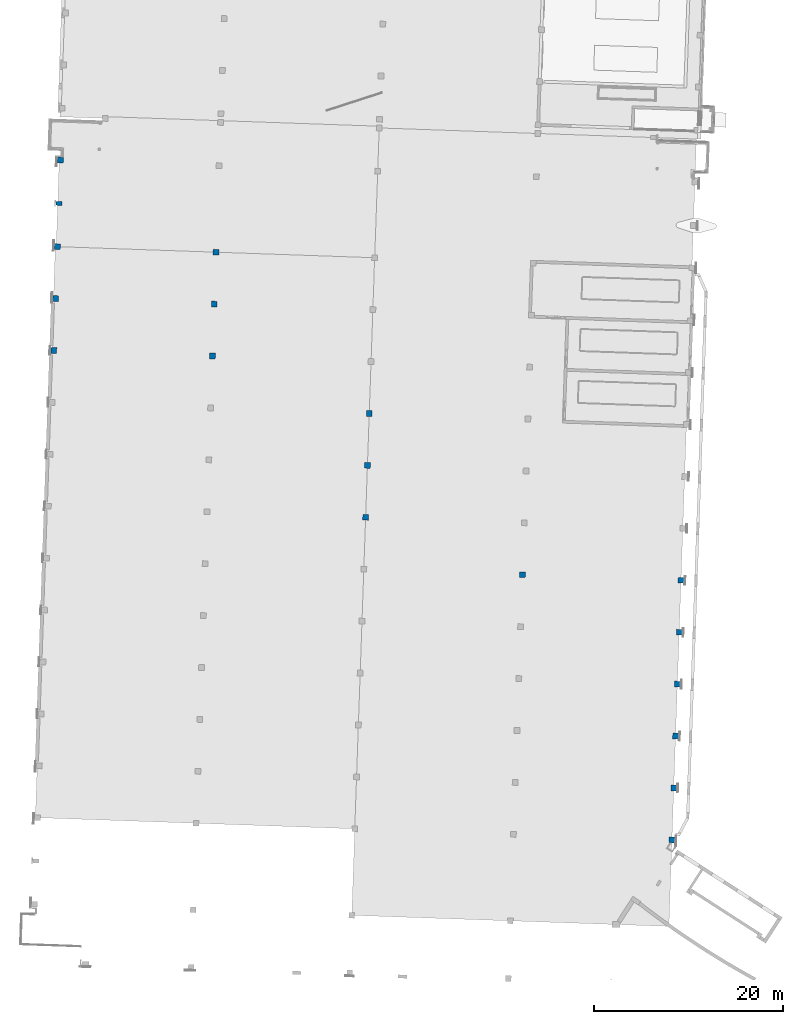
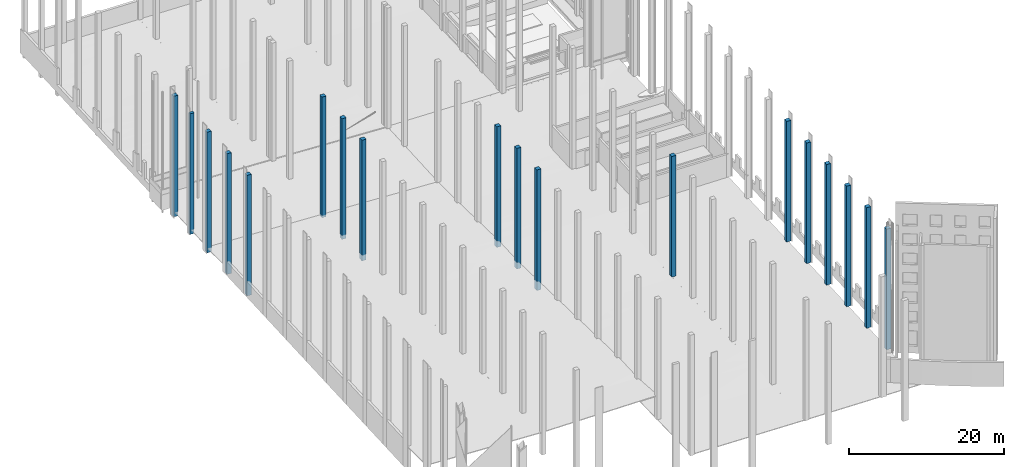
# One storey, part 2 of 44: 18 columns.
"""IFC2X3 building model written with IfcOpenShell, lengths in feet."""

import ifcopenshell
import ifcopenshell.guid

model = None  # the IFC model being written
_history = None  # IfcOwnerHistory: only IFC2X3 demands one
_inside = {}  # id of a spatial element -> (the spatial element, [elements in it])
_under = {}  # id of a project, library or spatial element -> (it, [spatial elements below it])
_declared = {}  # id of a project -> (the project, [libraries it declares])
_typed = {}  # id of a type object -> (the type object, [elements of that type])
_made_of = {}  # id of a material, layer set ... -> (it, [elements and type objects made of it])


def new_model(schema):
    """Start an empty IFC model of exactly this schema.

    Asked for "IFC4X3", IfcOpenShell would pick the latest addendum, in which some entities
    have other attributes; the version numbers below select the first issue.
    IFC2X3 requires an IfcOwnerHistory on every rooted entity: one is made here for all.
    """
    global model, _history
    if schema == "IFC4X3":
        model = ifcopenshell.file(schema_version=(4, 3, 0, 0))
    else:
        model = ifcopenshell.file(schema=schema)
    _inside.clear()
    _under.clear()
    _declared.clear()
    _typed.clear()
    _made_of.clear()
    _history = None
    if model.schema == "IFC2X3":
        org = make("IfcOrganization", Name="unknown")
        user = make(
            "IfcPersonAndOrganization",
            ThePerson=make("IfcPerson", FamilyName="unknown"),
            TheOrganization=org,
        )
        app = make(
            "IfcApplication",
            ApplicationDeveloper=org,
            Version="unknown",
            ApplicationFullName="unknown",
            ApplicationIdentifier="unknown",
        )
        _history = make(
            "IfcOwnerHistory",
            OwningUser=user,
            OwningApplication=app,
            ChangeAction="ADDED",
            CreationDate=0,
        )
    return model


def make(cls, **values):
    """One entity of the class cls with the attributes given. An attribute that is None is left unset."""
    return model.create_entity(
        cls, **{name: value for name, value in values.items() if value is not None}
    )


def entity(cls, *values):
    """Any entity or typed value of the class cls, its attributes in the order of the schema. None: left unset."""
    e = model.create_entity(cls)
    for i, value in enumerate(values):
        if value is not None:
            e[i] = value
    return e


def rooted(cls, **values):
    """An entity with a GlobalId (a new one), such as an element, a storey or a relation."""
    return make(cls, GlobalId=ifcopenshell.guid.new(), OwnerHistory=_history, **values)


def si_unit(unit_type, name, prefix=None):
    """IfcSIUnit, for example si_unit("LENGTHUNIT", "METRE", prefix="MILLI")."""
    return make("IfcSIUnit", UnitType=unit_type, Prefix=prefix, Name=name)


def converted_unit(unit_type, name, factor, base, dimensions=None, offset=None):
    """IfcConversionBasedUnit, such as the inch: factor (a typed value) times the base unit."""
    return make(
        "IfcConversionBasedUnit"
        if offset is None
        else "IfcConversionBasedUnitWithOffset",
        ConversionOffset=offset,
        Dimensions=None
        if dimensions is None
        else entity("IfcDimensionalExponents", *dimensions),
        UnitType=unit_type,
        Name=name,
        ConversionFactor=make(
            "IfcMeasureWithUnit", ValueComponent=factor, UnitComponent=base
        ),
    )


def derived_unit(unit_type, elements):
    """IfcDerivedUnit: a product of units, each with its exponent."""
    return make(
        "IfcDerivedUnit",
        Elements=[
            make("IfcDerivedUnitElement", Unit=unit, Exponent=power)
            for unit, power in elements
        ],
        UnitType=unit_type,
    )


def assignment(units):
    """IfcUnitAssignment: the units of a project."""
    return None if units is None else make("IfcUnitAssignment", Units=units)


def point(xyz):
    """IfcCartesianPoint."""
    return None if xyz is None else make("IfcCartesianPoint", Coordinates=xyz)


def direction(xyz):
    """IfcDirection."""
    return None if xyz is None else make("IfcDirection", DirectionRatios=xyz)


def frame(location, z_axis=None, x_axis=None):
    """IfcAxis2Placement3D, a coordinate frame: its origin and axes. An axis left out is left unset."""
    return make(
        "IfcAxis2Placement3D",
        Location=point(location),
        Axis=direction(z_axis),
        RefDirection=direction(x_axis),
    )


def frame_2d(location, x_axis=None):
    """IfcAxis2Placement2D, a coordinate frame in the plane: its origin and x axis."""
    return make(
        "IfcAxis2Placement2D", Location=point(location), RefDirection=direction(x_axis)
    )


def origin():
    """The frame at (0, 0, 0) with its axes left unset."""
    return frame((0.0, 0.0, 0.0))


def origin_2d_with_axis():
    """The frame at (0, 0) in the plane with the x axis (1, 0) written out."""
    return frame_2d((0.0, 0.0), x_axis=(1.0, 0.0))


def place(relative_to, where):
    """IfcLocalPlacement: puts the frame where relative to a parent placement (None: the world)."""
    return make(
        "IfcLocalPlacement", PlacementRelTo=relative_to, RelativePlacement=where
    )


def context(
    kind, dimensions, precision=None, world=None, true_north=None, identifier=None
):
    """IfcGeometricRepresentationContext, for example the 3D "Model" context."""
    return make(
        "IfcGeometricRepresentationContext",
        ContextIdentifier=identifier,
        ContextType=kind,
        CoordinateSpaceDimension=dimensions,
        Precision=precision,
        WorldCoordinateSystem=world,
        TrueNorth=true_north,
    )


def subcontext(parent, identifier, kind, view, scale=None):
    """IfcGeometricRepresentationSubContext, for example "Body" below "Model"."""
    return make(
        "IfcGeometricRepresentationSubContext",
        ContextIdentifier=identifier,
        ContextType=kind,
        ParentContext=parent,
        TargetScale=scale,
        TargetView=view,
    )


def project(units=None, contexts=None):
    """IfcProject with its units and contexts."""
    return rooted(
        "IfcProject",
        Name="project",
        RepresentationContexts=contexts,
        UnitsInContext=assignment(units),
    )


def spatial(cls, under=None, at=None, **own):
    """A site, building, storey or space (cls), placed at a placement, below another one or the project."""
    s = rooted(cls, ObjectPlacement=at, **own)
    if under is not None:
        _under.setdefault(under.id(), (under, []))[1].append(s)
    return s


def profile(cls, at=None, kind="AREA", **sizes):
    """A parametric profile (cls). Its sizes go by their IFC names, for example OverallWidth=200.0."""
    return make(cls, ProfileType=kind, Position=at, **sizes)


def rectangle(**sizes):
    """IfcRectangleProfileDef."""
    return profile("IfcRectangleProfileDef", **sizes)


def extrude(swept, where, along, depth):
    """IfcExtrudedAreaSolid: the profile swept, set in the frame where, extruded along a direction by depth."""
    return make(
        "IfcExtrudedAreaSolid",
        SweptArea=swept,
        Position=where,
        ExtrudedDirection=direction(along),
        Depth=depth,
    )


def shape(context_of_items, identifier, shape_type, items):
    """IfcShapeRepresentation: the items that make up one representation, for example the "Body"."""
    return make(
        "IfcShapeRepresentation",
        ContextOfItems=context_of_items,
        RepresentationIdentifier=identifier,
        RepresentationType=shape_type,
        Items=items,
    )


def source(mapping_origin, context_of_items, identifier, shape_type, items):
    """IfcRepresentationMap: a shape defined once, which mapped items show again and again."""
    return make(
        "IfcRepresentationMap",
        MappingOrigin=mapping_origin,
        MappedRepresentation=shape(context_of_items, identifier, shape_type, items),
    )


def transform(
    local_origin,
    x_axis=None,
    y_axis=None,
    z_axis=None,
    scale=None,
    scale2=None,
    scale3=None,
    uniform=True,
):
    """IfcCartesianTransformationOperator3D, or its non-uniform kind. x_axis, y_axis, z_axis: its Axis1, 2, 3."""
    if uniform:
        return make(
            "IfcCartesianTransformationOperator3D",
            Axis1=direction(x_axis),
            Axis2=direction(y_axis),
            LocalOrigin=point(local_origin),
            Scale=scale,
            Axis3=direction(z_axis),
        )
    return make(
        "IfcCartesianTransformationOperator3DnonUniform",
        Axis1=direction(x_axis),
        Axis2=direction(y_axis),
        LocalOrigin=point(local_origin),
        Scale=scale,
        Axis3=direction(z_axis),
        Scale2=scale2,
        Scale3=scale3,
    )


def mapped(mapping_source, mapping_target):
    """IfcMappedItem: shows the shape of a source again, moved by a transform."""
    return make(
        "IfcMappedItem", MappingSource=mapping_source, MappingTarget=mapping_target
    )


def material(Name=None, Category=None):
    """IfcMaterial."""
    return make("IfcMaterial", Name=Name, Category=Category)


def made_of(thing, what):
    """Note that an element or type object is made of a material, layer set ...; save() writes the relation."""
    if what is not None:
        _made_of.setdefault(what.id(), (what, []))[1].append(thing)
    return thing


def type_object(cls, material=None, **own):
    """A type object (cls), such as IfcWallType, which elements share."""
    return made_of(rooted(cls, **own), material)


def type_shapes(of_type, sources):
    """Give a type object the sources (RepresentationMaps) that its elements show as mapped items."""
    of_type.RepresentationMaps = sources


def element(
    cls,
    number,
    at=None,
    inside=None,
    cuts=None,
    type_object=None,
    material=None,
    context=None,
    identifier="Body",
    shape_type=None,
    held_by="IfcProductDefinitionShape",
    body=None,
    shapes=None,
    **own,
):
    """One element of the class cls, such as IfcWall. Its Tag is "e" and its number.

    at: its placement. inside: the storey or other place that contains it. cuts: it is an
    opening in that element (IfcRelVoidsElement). A single representation is given by context,
    identifier, shape_type and body (its items); several are given by shapes. held_by: the class
    of the entity that holds the representations. save() writes the other relations.
    """
    e = rooted(cls, Tag="e%d" % number, ObjectPlacement=at, **own)
    if body is not None:
        shapes = [shape(context, identifier, shape_type, body)]
    if shapes is not None:
        e.Representation = make(held_by, Representations=shapes)
    if inside is not None:
        _inside.setdefault(inside.id(), (inside, []))[1].append(e)
    if cuts is not None:
        rooted(
            "IfcRelVoidsElement", RelatingBuildingElement=cuts, RelatedOpeningElement=e
        )
    if type_object is not None:
        _typed.setdefault(type_object.id(), (type_object, []))[1].append(e)
    return made_of(e, material)


def aggregate(whole, parts):
    """IfcRelAggregates: a whole, such as a stair, and the parts it consists of."""
    return rooted("IfcRelAggregates", RelatingObject=whole, RelatedObjects=parts)


def save(model, path):
    """Write the relations noted so far, then the file.

    IfcRelAggregates (storeys below a building ...), IfcRelContainedInSpatialStructure (elements
    in a storey), IfcRelDefinesByType, IfcRelAssociatesMaterial and IfcRelDeclares: one each for
    every whole, place, type object, material and project.
    """
    for whole, parts in _under.values():
        aggregate(whole, parts)
    for where, things in _inside.values():
        rooted(
            "IfcRelContainedInSpatialStructure",
            RelatedElements=things,
            RelatingStructure=where,
        )
    for kind, things in _typed.values():
        rooted("IfcRelDefinesByType", RelatedObjects=things, RelatingType=kind)
    for what, things in _made_of.values():
        rooted("IfcRelAssociatesMaterial", RelatedObjects=things, RelatingMaterial=what)
    for by, libraries in _declared.values():
        rooted("IfcRelDeclares", RelatingContext=by, RelatedDefinitions=libraries)
    model.write(path)


model = new_model("IFC2X3")

# Units and contexts
model_context = context("Model", 3, precision=0.0001, world=origin(), true_north=direction((0.999390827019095, 0.0348994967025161)))
body_context = subcontext(model_context, "Body", "Model", "MODEL_VIEW")
ifc_project = project(units=[converted_unit("LENGTHUNIT", "FOOT", entity("IfcRatioMeasure", 0.3048), si_unit("LENGTHUNIT", "METRE"), dimensions=[1, 0, 0, 0, 0, 0, 0]), converted_unit("AREAUNIT", "SQUARE FOOT", entity("IfcRatioMeasure", 0.09290304), si_unit("AREAUNIT", "SQUARE_METRE"), dimensions=[2, 0, 0, 0, 0, 0, 0]), converted_unit("VOLUMEUNIT", "CUBIC FOOT", entity("IfcRatioMeasure", 0.028316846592), si_unit("VOLUMEUNIT", "CUBIC_METRE"), dimensions=[3, 0, 0, 0, 0, 0, 0]), converted_unit("PLANEANGLEUNIT", "DEGREE", entity("IfcRatioMeasure", 0.0174532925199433), si_unit("PLANEANGLEUNIT", "RADIAN"), dimensions=[0, 0, 0, 0, 0, 0, 0]), si_unit("MASSUNIT", "GRAM", prefix="KILO"), si_unit("TIMEUNIT", "SECOND"), si_unit("FREQUENCYUNIT", "HERTZ"), si_unit("THERMODYNAMICTEMPERATUREUNIT", "DEGREE_CELSIUS"), derived_unit("THERMALTRANSMITTANCEUNIT", [(si_unit("MASSUNIT", "GRAM", prefix="KILO"), 1), (si_unit("THERMODYNAMICTEMPERATUREUNIT", "KELVIN"), -1), (si_unit("TIMEUNIT", "SECOND"), -3)]), derived_unit("VOLUMETRICFLOWRATEUNIT", [(si_unit("LENGTHUNIT", "METRE"), 3), (si_unit("TIMEUNIT", "SECOND"), -1)]), si_unit("ELECTRICCURRENTUNIT", "AMPERE"), si_unit("ELECTRICVOLTAGEUNIT", "VOLT"), si_unit("POWERUNIT", "WATT"), si_unit("FORCEUNIT", "NEWTON"), si_unit("ILLUMINANCEUNIT", "LUX"), si_unit("LUMINOUSFLUXUNIT", "LUMEN"), si_unit("LUMINOUSINTENSITYUNIT", "CANDELA"), derived_unit("USERDEFINED", [(si_unit("MASSUNIT", "GRAM", prefix="KILO"), -1), (si_unit("LENGTHUNIT", "METRE"), -2), (si_unit("TIMEUNIT", "SECOND"), 3), (si_unit("LUMINOUSFLUXUNIT", "LUMEN"), 1)]), derived_unit("LINEARVELOCITYUNIT", [(si_unit("LENGTHUNIT", "METRE"), 1), (si_unit("TIMEUNIT", "SECOND"), -1)]), si_unit("PRESSUREUNIT", "PASCAL"), derived_unit("USERDEFINED", [(si_unit("LENGTHUNIT", "METRE"), -2), (si_unit("MASSUNIT", "GRAM", prefix="KILO"), 1), (si_unit("TIMEUNIT", "SECOND"), -2)])], contexts=[model_context])

# Site, building, storey
site_placement = place(None, frame((892.518771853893, 322.38689265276, 0.00393700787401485), z_axis=(0.0, 0.0, 1.0), x_axis=(0.0348994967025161, 0.999390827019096, 0.0)))
site = spatial("IfcSite", under=ifc_project, at=site_placement, Name="Default", CompositionType="ELEMENT")
building_placement = place(site_placement, origin())
building = spatial("IfcBuilding", under=site, at=building_placement, CompositionType="ELEMENT")
storey_placement = place(building_placement, frame((0.0, 0.0, 544.75)))
storey = spatial("IfcBuildingStorey", under=building, at=storey_placement, Name="Exist Garage - Ground Level", CompositionType="ELEMENT", Elevation=544.75)

# Columns
ifc_material = material(Name="Concrete - Cast-in-Place Concrete")
column_type_1 = type_object("IfcColumnType", Name="24 x 24", PredefinedType="COLUMN", material=ifc_material)
shared_shape_1 = source(origin(), body_context, "Body", "SweptSolid", [
    extrude(rectangle(XDim=2.0, YDim=2.0, at=origin_2d_with_axis()), frame((87.9272968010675, 456.76395347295, 544.75), z_axis=(0.0, 0.0, 1.0), x_axis=(0.0, -1.0, 0.0)), (0.0, 0.0, 1.0), 62.25),
])
type_shapes(column_type_1, [shared_shape_1])
column_1_placement = place(storey_placement, frame((0.0, 0.0, -544.75)))
element("IfcColumn", 1, at=column_1_placement, inside=storey, type_object=column_type_1, material=ifc_material, Name="Concrete-Square-Column:24 x 24", ObjectType="24 x 24", context=body_context, shape_type="MappedRepresentation", body=[
    mapped(shared_shape_1, transform((0.0, 0.0, 0.0), scale=1.0)),
])
column_type_2 = type_object("IfcColumnType", Name="16 x 24", PredefinedType="COLUMN", material=ifc_material)
shared_shape_2 = source(origin(), body_context, "Body", "SweptSolid", [
    extrude(rectangle(XDim=2.0, YDim=1.33333333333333, at=origin_2d_with_axis()), frame((72.9272968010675, 456.76395347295, 544.75), z_axis=(0.0, 0.0, 1.0), x_axis=(0.0, -1.0, 0.0)), (0.0, 0.0, 1.0), 62.25),
])
type_shapes(column_type_2, [shared_shape_2])
column_2_placement = place(storey_placement, frame((0.0, 0.0, -544.75)))
element("IfcColumn", 2, at=column_2_placement, inside=storey, type_object=column_type_2, material=ifc_material, Name="Concrete-Rectangular-Column:16 x 24", ObjectType="16 x 24", context=body_context, shape_type="MappedRepresentation", body=[
    mapped(shared_shape_2, transform((0.0, 0.0, 0.0), scale=1.0)),
])
column_type_3 = type_object("IfcColumnType", Name="24 x 24", PredefinedType="COLUMN", material=ifc_material)
shared_shape_3 = source(origin(), body_context, "Body", "SweptSolid", [
    extrude(rectangle(XDim=2.0, YDim=2.0, at=origin_2d_with_axis()), frame((57.9272542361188, 456.76395347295, 544.75), z_axis=(0.0, 0.0, 1.0), x_axis=(0.0, -1.0, 0.0)), (0.0, 0.0, 1.0), 62.25),
])
type_shapes(column_type_3, [shared_shape_3])
column_3_placement = place(storey_placement, frame((0.0, 0.0, -544.75)))
element("IfcColumn", 3, at=column_3_placement, inside=storey, type_object=column_type_3, material=ifc_material, Name="Concrete-Square-Column:24 x 24", ObjectType="24 x 24", context=body_context, shape_type="MappedRepresentation", body=[
    mapped(shared_shape_3, transform((0.0, 0.0, 0.0), scale=1.0)),
])
column_type_4 = type_object("IfcColumnType", Name="24 x 24", PredefinedType="COLUMN", material=ifc_material)
shared_shape_4 = source(origin(), body_context, "Body", "SweptSolid", [
    extrude(rectangle(XDim=2.0, YDim=2.0, at=origin_2d_with_axis()), frame((39.9272542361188, 456.76395347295, 544.75), z_axis=(0.0, 0.0, 1.0), x_axis=(0.0, -1.0, 0.0)), (0.0, 0.0, 1.0), 62.25),
])
type_shapes(column_type_4, [shared_shape_4])
column_4_placement = place(storey_placement, frame((0.0, 0.0, -544.75)))
element("IfcColumn", 4, at=column_4_placement, inside=storey, type_object=column_type_4, material=ifc_material, Name="Concrete-Square-Column:24 x 24", ObjectType="24 x 24", context=body_context, shape_type="MappedRepresentation", body=[
    mapped(shared_shape_4, transform((0.0, 0.0, 0.0), scale=1.0)),
])
column_type_5 = type_object("IfcColumnType", Name="24 x 24", PredefinedType="COLUMN", material=ifc_material)
shared_shape_5 = source(origin(), body_context, "Body", "SweptSolid", [
    extrude(rectangle(XDim=2.0, YDim=2.0, at=origin_2d_with_axis()), frame((21.9272542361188, 456.76395347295, 544.75), z_axis=(0.0, 0.0, 1.0), x_axis=(0.0, -1.0, 0.0)), (0.0, 0.0, 1.0), 62.25),
])
type_shapes(column_type_5, [shared_shape_5])
column_5_placement = place(storey_placement, frame((0.0, 0.0, -544.75)))
element("IfcColumn", 5, at=column_5_placement, inside=storey, type_object=column_type_5, material=ifc_material, Name="Concrete-Square-Column:24 x 24", ObjectType="24 x 24", context=body_context, shape_type="MappedRepresentation", body=[
    mapped(shared_shape_5, transform((0.0, 0.0, 0.0), scale=1.0)),
])
column_type_6 = type_object("IfcColumnType", Name="24 x 24", PredefinedType="COLUMN", material=ifc_material)
shared_shape_6 = source(origin(), body_context, "Body", "SweptSolid", [
    extrude(rectangle(XDim=2.0, YDim=2.0, at=origin_2d_with_axis()), frame((57.9272542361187, 401.76395347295, 544.75), z_axis=(0.0, 0.0, 1.0), x_axis=(0.0, -1.0, 0.0)), (0.0, 0.0, 1.0), 62.25),
])
type_shapes(column_type_6, [shared_shape_6])
column_6_placement = place(storey_placement, frame((0.0, 0.0, -544.75)))
element("IfcColumn", 6, at=column_6_placement, inside=storey, type_object=column_type_6, material=ifc_material, Name="Concrete-Square-Column:24 x 24", ObjectType="24 x 24", context=body_context, shape_type="MappedRepresentation", body=[
    mapped(shared_shape_6, transform((0.0, 0.0, 0.0), scale=1.0)),
])
column_type_7 = type_object("IfcColumnType", Name="24 x 24", PredefinedType="COLUMN", material=ifc_material)
shared_shape_7 = source(origin(), body_context, "Body", "SweptSolid", [
    extrude(rectangle(XDim=2.0, YDim=2.0, at=origin_2d_with_axis()), frame((39.9272542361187, 401.76395347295, 544.75), z_axis=(0.0, 0.0, 1.0), x_axis=(0.0, -1.0, 0.0)), (0.0, 0.0, 1.0), 62.25),
])
type_shapes(column_type_7, [shared_shape_7])
column_7_placement = place(storey_placement, frame((0.0, 0.0, -544.75)))
element("IfcColumn", 7, at=column_7_placement, inside=storey, type_object=column_type_7, material=ifc_material, Name="Concrete-Square-Column:24 x 24", ObjectType="24 x 24", context=body_context, shape_type="MappedRepresentation", body=[
    mapped(shared_shape_7, transform((0.0, 0.0, 0.0), scale=1.0)),
])
column_type_8 = type_object("IfcColumnType", Name="24 x 24", PredefinedType="COLUMN", material=ifc_material)
shared_shape_8 = source(origin(), body_context, "Body", "SweptSolid", [
    extrude(rectangle(XDim=2.0, YDim=2.0, at=origin_2d_with_axis()), frame((21.9272542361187, 401.76395347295, 544.75), z_axis=(0.0, 0.0, 1.0), x_axis=(0.0, -1.0, 0.0)), (0.0, 0.0, 1.0), 62.25),
])
type_shapes(column_type_8, [shared_shape_8])
column_8_placement = place(storey_placement, frame((0.0, 0.0, -544.75)))
element("IfcColumn", 8, at=column_8_placement, inside=storey, type_object=column_type_8, material=ifc_material, Name="Concrete-Square-Column:24 x 24", ObjectType="24 x 24", context=body_context, shape_type="MappedRepresentation", body=[
    mapped(shared_shape_8, transform((0.0, 0.0, 0.0), scale=1.0)),
])
column_type_9 = type_object("IfcColumnType", Name="24 x 24", PredefinedType="COLUMN", material=ifc_material)
shared_shape_9 = source(origin(), body_context, "Body", "SweptSolid", [
    extrude(rectangle(XDim=2.0, YDim=2.0, at=origin_2d_with_axis()), frame((3.9272542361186, 346.763953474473, 544.75), z_axis=(0.0, 0.0, 1.0), x_axis=(0.0, -1.0, 0.0)), (0.0, 0.0, 1.0), 62.25),
])
type_shapes(column_type_9, [shared_shape_9])
column_9_placement = place(storey_placement, frame((0.0, 0.0, -544.75)))
element("IfcColumn", 9, at=column_9_placement, inside=storey, type_object=column_type_9, material=ifc_material, Name="Concrete-Square-Column:24 x 24", ObjectType="24 x 24", context=body_context, shape_type="MappedRepresentation", body=[
    mapped(shared_shape_9, transform((0.0, 0.0, 0.0), scale=1.0)),
])
column_type_10 = type_object("IfcColumnType", Name="24 x 24", PredefinedType="COLUMN", material=ifc_material)
shared_shape_10 = source(origin(), body_context, "Body", "SweptSolid", [
    extrude(rectangle(XDim=2.0, YDim=2.0, at=origin_2d_with_axis()), frame((-14.0727457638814, 346.763953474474, 544.75), z_axis=(0.0, 0.0, 1.0), x_axis=(0.0, -1.0, 0.0)), (0.0, 0.0, 1.0), 62.25),
])
type_shapes(column_type_10, [shared_shape_10])
column_10_placement = place(storey_placement, frame((0.0, 0.0, -544.75)))
element("IfcColumn", 10, at=column_10_placement, inside=storey, type_object=column_type_10, material=ifc_material, Name="Concrete-Square-Column:24 x 24", ObjectType="24 x 24", context=body_context, shape_type="MappedRepresentation", body=[
    mapped(shared_shape_10, transform((0.0, 0.0, 0.0), scale=1.0)),
])
column_type_11 = type_object("IfcColumnType", Name="24 x 24", PredefinedType="COLUMN", material=ifc_material)
shared_shape_11 = source(origin(), body_context, "Body", "SweptSolid", [
    extrude(rectangle(XDim=2.0, YDim=2.0, at=origin_2d_with_axis()), frame((-32.0727457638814, 346.763953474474, 544.75), z_axis=(0.0, 0.0, 1.0), x_axis=(0.0, -1.0, 0.0)), (0.0, 0.0, 1.0), 62.25),
])
type_shapes(column_type_11, [shared_shape_11])
column_11_placement = place(storey_placement, frame((0.0, 0.0, -544.75)))
element("IfcColumn", 11, at=column_11_placement, inside=storey, type_object=column_type_11, material=ifc_material, Name="Concrete-Square-Column:24 x 24", ObjectType="24 x 24", context=body_context, shape_type="MappedRepresentation", body=[
    mapped(shared_shape_11, transform((0.0, 0.0, 0.0), scale=1.0)),
])
column_type_12 = type_object("IfcColumnType", Name="24 x 24", PredefinedType="COLUMN", material=ifc_material)
shared_shape_12 = source(origin(), body_context, "Body", "SweptSolid", [
    extrude(rectangle(XDim=2.0, YDim=2.0, at=origin_2d_with_axis()), frame((-50.0727457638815, 291.763953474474, 544.75), z_axis=(0.0, 0.0, 1.0), x_axis=(0.0, -1.0, 0.0)), (0.0, 0.0, 1.0), 62.25),
])
type_shapes(column_type_12, [shared_shape_12])
column_12_placement = place(storey_placement, frame((0.0, 0.0, -544.75)))
element("IfcColumn", 12, at=column_12_placement, inside=storey, type_object=column_type_12, material=ifc_material, Name="Concrete-Square-Column:24 x 24", ObjectType="24 x 24", context=body_context, shape_type="MappedRepresentation", body=[
    mapped(shared_shape_12, transform((0.0, 0.0, 0.0), scale=1.0)),
])
column_type_13 = type_object("IfcColumnType", Name="24 x 24", PredefinedType="COLUMN", material=ifc_material)
shared_shape_13 = source(origin(), body_context, "Body", "SweptSolid", [
    extrude(rectangle(XDim=2.0, YDim=2.0, at=origin_2d_with_axis()), frame((-50.0727457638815, 236.763953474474, 544.75), z_axis=(0.0, 0.0, 1.0), x_axis=(0.0, -1.0, 0.0)), (0.0, 0.0, 1.0), 62.25),
])
type_shapes(column_type_13, [shared_shape_13])
column_13_placement = place(storey_placement, frame((0.0, 0.0, -544.75)))
element("IfcColumn", 13, at=column_13_placement, inside=storey, type_object=column_type_13, material=ifc_material, Name="Concrete-Square-Column:24 x 24", ObjectType="24 x 24", context=body_context, shape_type="MappedRepresentation", body=[
    mapped(shared_shape_13, transform((0.0, 0.0, 0.0), scale=1.0)),
])
column_type_14 = type_object("IfcColumnType", Name="24 x 24", PredefinedType="COLUMN", material=ifc_material)
shared_shape_14 = source(origin(), body_context, "Body", "SweptSolid", [
    extrude(rectangle(XDim=2.0, YDim=2.0, at=origin_2d_with_axis()), frame((-68.0727457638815, 236.763953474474, 544.75), z_axis=(0.0, 0.0, 1.0), x_axis=(0.0, -1.0, 0.0)), (0.0, 0.0, 1.0), 62.25),
])
type_shapes(column_type_14, [shared_shape_14])
column_14_placement = place(storey_placement, frame((0.0, 0.0, -544.75)))
element("IfcColumn", 14, at=column_14_placement, inside=storey, type_object=column_type_14, material=ifc_material, Name="Concrete-Square-Column:24 x 24", ObjectType="24 x 24", context=body_context, shape_type="MappedRepresentation", body=[
    mapped(shared_shape_14, transform((0.0, 0.0, 0.0), scale=1.0)),
])
column_type_15 = type_object("IfcColumnType", Name="24 x 24", PredefinedType="COLUMN", material=ifc_material)
shared_shape_15 = source(origin(), body_context, "Body", "SweptSolid", [
    extrude(rectangle(XDim=2.0, YDim=2.0, at=origin_2d_with_axis()), frame((-86.0727457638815, 236.763953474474, 544.75), z_axis=(0.0, 0.0, 1.0), x_axis=(0.0, -1.0, 0.0)), (0.0, 0.0, 1.0), 62.25),
])
type_shapes(column_type_15, [shared_shape_15])
column_15_placement = place(storey_placement, frame((0.0, 0.0, -544.75)))
element("IfcColumn", 15, at=column_15_placement, inside=storey, type_object=column_type_15, material=ifc_material, Name="Concrete-Square-Column:24 x 24", ObjectType="24 x 24", context=body_context, shape_type="MappedRepresentation", body=[
    mapped(shared_shape_15, transform((0.0, 0.0, 0.0), scale=1.0)),
])
column_type_16 = type_object("IfcColumnType", Name="24 x 24", PredefinedType="COLUMN", material=ifc_material)
shared_shape_16 = source(origin(), body_context, "Body", "SweptSolid", [
    extrude(rectangle(XDim=2.0, YDim=2.0, at=origin_2d_with_axis()), frame((-104.072745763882, 236.763953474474, 544.75), z_axis=(0.0, 0.0, 1.0), x_axis=(0.0, -1.0, 0.0)), (0.0, 0.0, 1.0), 62.25),
])
type_shapes(column_type_16, [shared_shape_16])
column_16_placement = place(storey_placement, frame((0.0, 0.0, -544.75)))
element("IfcColumn", 16, at=column_16_placement, inside=storey, type_object=column_type_16, material=ifc_material, Name="Concrete-Square-Column:24 x 24", ObjectType="24 x 24", context=body_context, shape_type="MappedRepresentation", body=[
    mapped(shared_shape_16, transform((0.0, 0.0, 0.0), scale=1.0)),
])
column_type_17 = type_object("IfcColumnType", Name="24 x 24", PredefinedType="COLUMN", material=ifc_material)
shared_shape_17 = source(origin(), body_context, "Body", "SweptSolid", [
    extrude(rectangle(XDim=2.0, YDim=2.0, at=origin_2d_with_axis()), frame((-122.072745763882, 236.763953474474, 544.75), z_axis=(0.0, 0.0, 1.0), x_axis=(0.0, -1.0, 0.0)), (0.0, 0.0, 1.0), 62.25),
])
type_shapes(column_type_17, [shared_shape_17])
column_17_placement = place(storey_placement, frame((0.0, 0.0, -544.75)))
element("IfcColumn", 17, at=column_17_placement, inside=storey, type_object=column_type_17, material=ifc_material, Name="Concrete-Square-Column:24 x 24", ObjectType="24 x 24", context=body_context, shape_type="MappedRepresentation", body=[
    mapped(shared_shape_17, transform((0.0, 0.0, 0.0), scale=1.0)),
])
column_type_18 = type_object("IfcColumnType", Name="24 x 24", PredefinedType="COLUMN", material=ifc_material)
shared_shape_18 = source(origin(), body_context, "Body", "SweptSolid", [
    extrude(rectangle(XDim=2.0, YDim=2.0, at=origin_2d_with_axis()), frame((-140.072745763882, 236.763953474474, 544.75), z_axis=(0.0, 0.0, 1.0), x_axis=(0.0, -1.0, 0.0)), (0.0, 0.0, 1.0), 62.25),
])
type_shapes(column_type_18, [shared_shape_18])
column_18_placement = place(storey_placement, frame((0.0, 0.0, -544.75)))
element("IfcColumn", 18, at=column_18_placement, inside=storey, type_object=column_type_18, material=ifc_material, Name="Concrete-Square-Column:24 x 24", ObjectType="24 x 24", context=body_context, shape_type="MappedRepresentation", body=[
    mapped(shared_shape_18, transform((0.0, 0.0, 0.0), scale=1.0)),
])

save(model, "model.ifc")
